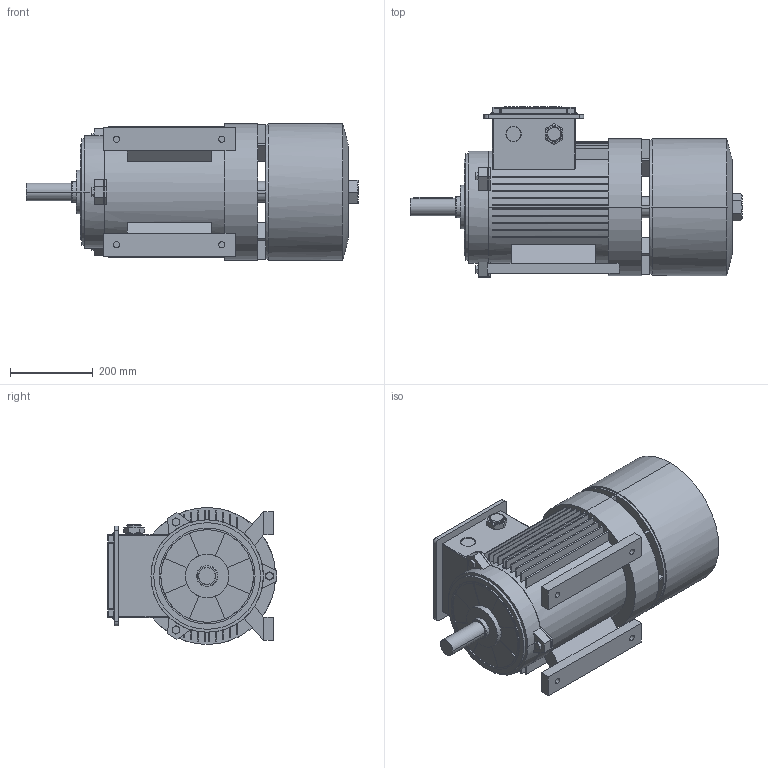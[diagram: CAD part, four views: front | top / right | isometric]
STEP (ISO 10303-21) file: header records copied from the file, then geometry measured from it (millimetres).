
FILE_DESCRIPTION (( 'STEP AP214' ), '1' );
FILE_NAME ('MBF 160L-B3.STEP', '2020-06-20T07:42:20', ( '' ), ( '' ), 'SwSTEP 2.0', 'SolidWorks 2016', '' );
FILE_SCHEMA (( 'AUTOMOTIVE_DESIGN' ));
Length unit declared in the file: millimetre
Products named in the file (1): MBF 160L-B3
Bounding box: 800 x 409.56 x 330 mm (x, y, z)
Surface area: 1685421.2 mm2 (no closed solid volume)
Topology: 0 solids, 14 shells, 761 faces, 2025 edges, 1300 vertices
Faces by surface type: plane 472, cylinder 141, bspline 101, cone 47
Entity records: 35695 total; most frequent: CARTESIAN_POINT 9006, ORIENTED_EDGE 3994, DIRECTION 3379, EDGE_CURVE 2013, VERTEX_POINT 1300, LINE 1283, VECTOR 1283, AXIS2_PLACEMENT_3D 1048
